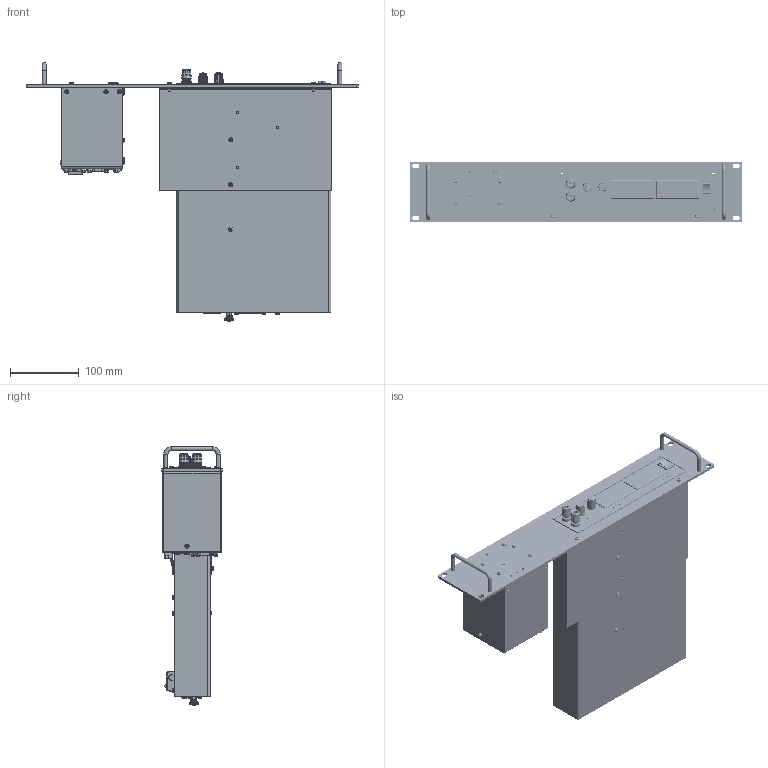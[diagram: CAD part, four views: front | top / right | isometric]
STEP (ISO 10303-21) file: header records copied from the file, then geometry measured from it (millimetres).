
FILE_DESCRIPTION(/* description */ (''),/* implementation_level */ '2;1');
FILE_NAME(/* name */ 'A:\Data\ES300\Option\RA19 1ES300-PSC232\step file\RA19-1 ES300-PSC232.stp',/* time_stamp */ '2021-01-05T09:15:01+01:00',/* author */ ('Delta'),/* organization */ (''),/* preprocessor_version */ 'ST-DEVELOPER v17.2',/* originating_system */ 'Autodesk Inventor 2019',/* authorisation */ '');
FILE_SCHEMA (('AUTOMOTIVE_DESIGN { 1 0 10303 214 3 1 1 }'));
Products named in the file (1): _Assembly RA19-1 ES300-PSC232_Shrinkwrap_1
Bounding box: 482.5 x 88.1 x 375.95 mm (x, y, z)
Surface area: 462407.9 mm2 (no closed solid volume)
Topology: 0 solids, 1 shells, 4938 faces, 12338 edges, 7795 vertices
Faces by surface type: plane 2940, cylinder 807, bspline 485, cone 454, torus 184, sphere 68
Full cylindrical faces by diameter (mm): 0.9 x9, 1 x15, 1.1 x24, 1.5 x8, 2.156 x8, 2.459 x2, 2.75 x6, 2.9 x4, 3 x6, 3.1 x6, 3.2 x8, 3.4 x4, 3.5 x179, 4 x12, 4.1 x4, 4.14 x2, 4.2 x4, 4.3 x2, 4.5 x6, 4.75 x4, 5 x1, 5.5 x5, 5.8 x1, 6 x78, 6.7 x2, 6.8 x4, 7 x1, 7.8 x2, 8 x4, 8.8 x3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
Entity records: 162255 total; most frequent: CARTESIAN_POINT 43053, ORIENTED_EDGE 24526, DIRECTION 22624, EDGE_CURVE 12263, AXIS2_PLACEMENT_3D 8026, VERTEX_POINT 7801, LINE 6572, VECTOR 6572
